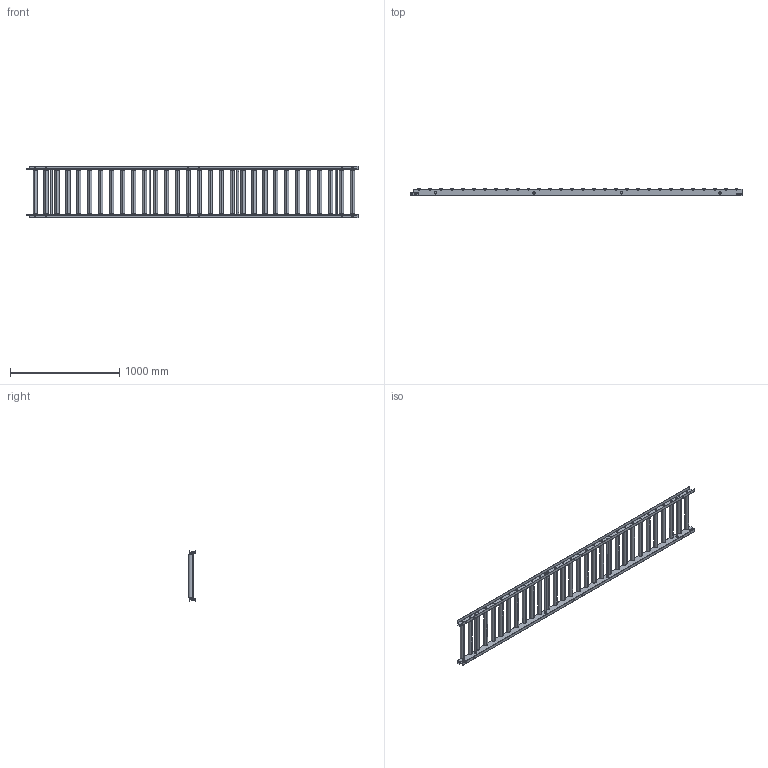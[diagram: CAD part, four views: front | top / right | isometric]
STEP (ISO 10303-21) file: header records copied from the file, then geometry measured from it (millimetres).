
FILE_DESCRIPTION (( 'STEP AP203' ), '1' );
FILE_NAME ('RA-3816.step', '2024-02-26T06:38:16', ( '' ), ( '' ), 'SwSTEP 2.0', 'SolidWorks 2023', '' );
FILE_SCHEMA (( 'CONFIG_CONTROL_DESIGN' ));
Length unit declared in the file: millimetre
Products named in the file (1): RA-3816
Bounding box: 3033 x 67.02 x 475 mm (x, y, z)
Volume: 15269620.8 mm3; surface area: 3962952.9 mm2
Topology: 84 solids, 84 shells, 1300 faces, 2992 edges, 1928 vertices
Faces by surface type: cylinder 634, plane 498, torus 120, cone 48
Entity records: 38295 total; most frequent: DIRECTION 7142, CARTESIAN_POINT 6893, ORIENTED_EDGE 5984, EDGE_CURVE 2992, AXIS2_PLACEMENT_3D 2977, VERTEX_POINT 1928, EDGE_LOOP 1692, CIRCLE 1676
